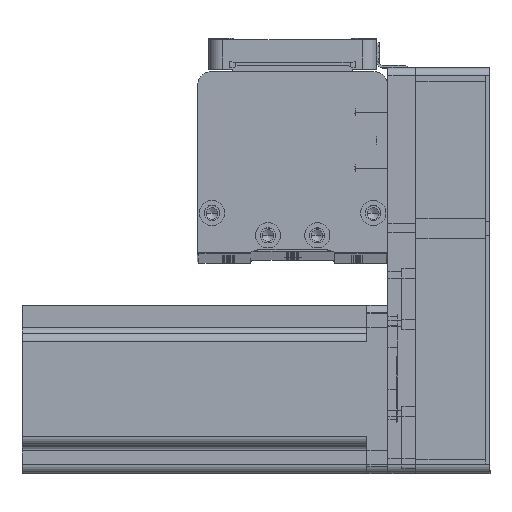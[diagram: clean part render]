
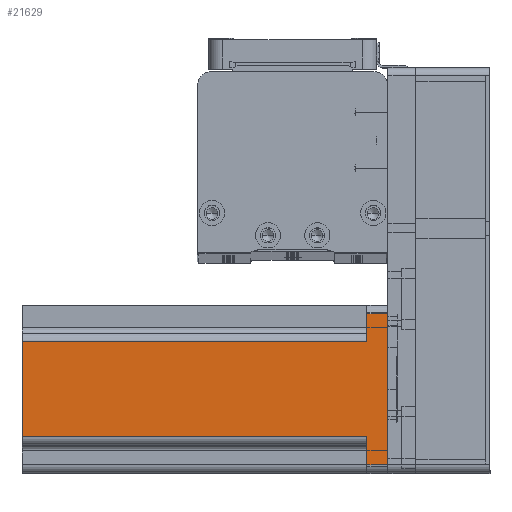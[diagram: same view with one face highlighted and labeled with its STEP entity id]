
A CAD part, top view. The second image highlights one B-rep face of the part: STEP entity #21629.
In plain terms, the highlighted planar face has unit normal (0, 0, 1) as drawn and (0, 1, 0) by its records, which use the part's own axes.
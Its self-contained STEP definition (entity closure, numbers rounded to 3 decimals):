
#415 = ORIENTED_EDGE ( 'NONE', *, *, #3686, .T. ) ;
#421 = CARTESIAN_POINT ( 'NONE',  ( -27., 30., 130.7 ) ) ;
#671 = ORIENTED_EDGE ( 'NONE', *, *, #35387, .T. ) ;
#2283 = EDGE_CURVE ( 'NONE', #49213, #11969, #56302, .T. ) ;
#2529 = ORIENTED_EDGE ( 'NONE', *, *, #20907, .F. ) ;
#2707 = ORIENTED_EDGE ( 'NONE', *, *, #14822, .T. ) ;
#3686 = EDGE_CURVE ( 'NONE', #53828, #40992, #45967, .T. ) ;
#5353 = CARTESIAN_POINT ( 'NONE',  ( -17., 30., 130.7 ) ) ;
#6034 = CARTESIAN_POINT ( 'NONE',  ( -27., 30., 7.5 ) ) ;
#6413 = VECTOR ( 'NONE', #31172, 1000. ) ;
#6857 = VECTOR ( 'NONE', #18306, 1000. ) ;
#7381 = FACE_OUTER_BOUND ( 'NONE', #14682, .T. ) ;
#8769 = CARTESIAN_POINT ( 'NONE',  ( 30., 30., 130.7 ) ) ;
#8783 = VERTEX_POINT ( 'NONE', #49005 ) ;
#10098 = EDGE_CURVE ( 'NONE', #13231, #8783, #54765, .T. ) ;
#11969 = VERTEX_POINT ( 'NONE', #32839 ) ;
#13134 = DIRECTION ( 'NONE',  ( 1., 0., 0. ) ) ;
#13231 = VERTEX_POINT ( 'NONE', #48458 ) ;
#13248 = EDGE_CURVE ( 'NONE', #13950, #40992, #29581, .T. ) ;
#13950 = VERTEX_POINT ( 'NONE', #54290 ) ;
#14682 = EDGE_LOOP ( 'NONE', ( #28384, #2707, #2529, #415, #17820, #16548, #38986, #671 ) ) ;
#14822 = EDGE_CURVE ( 'NONE', #11969, #56229, #18445, .T. ) ;
#16548 = ORIENTED_EDGE ( 'NONE', *, *, #22877, .T. ) ;
#16787 = CARTESIAN_POINT ( 'NONE',  ( -20., 30., 7.5 ) ) ;
#17422 = VECTOR ( 'NONE', #31911, 1000. ) ;
#17820 = ORIENTED_EDGE ( 'NONE', *, *, #13248, .F. ) ;
#17932 = DIRECTION ( 'NONE',  ( 0., 0., 1. ) ) ;
#18306 = DIRECTION ( 'NONE',  ( 0., 0., 1. ) ) ;
#18445 = LINE ( 'NONE', #5353, #6857 ) ;
#20257 = VECTOR ( 'NONE', #38514, 1000. ) ;
#20850 = VECTOR ( 'NONE', #52035, 1000. ) ;
#20907 = EDGE_CURVE ( 'NONE', #53828, #56229, #49590, .T. ) ;
#21629 = ADVANCED_FACE ( 'NONE', ( #7381 ), #21716, .F. ) ;
#21716 = PLANE ( 'NONE',  #31831 ) ;
#22877 = EDGE_CURVE ( 'NONE', #13950, #13231, #53520, .T. ) ;
#26775 = CARTESIAN_POINT ( 'NONE',  ( 20., 30., 7.5 ) ) ;
#28384 = ORIENTED_EDGE ( 'NONE', *, *, #2283, .T. ) ;
#29581 = LINE ( 'NONE', #26775, #6413 ) ;
#30694 = VECTOR ( 'NONE', #17932, 1000. ) ;
#31172 = DIRECTION ( 'NONE',  ( -1., 0., 0. ) ) ;
#31831 = AXIS2_PLACEMENT_3D ( 'NONE', #8769, #39252, #13134 ) ;
#31911 = DIRECTION ( 'NONE',  ( 0., 0., -1. ) ) ;
#32595 = CARTESIAN_POINT ( 'NONE',  ( 17., 30., 130.7 ) ) ;
#32839 = CARTESIAN_POINT ( 'NONE',  ( -17., 30., 7.5 ) ) ;
#33413 = CARTESIAN_POINT ( 'NONE',  ( 30., 30., 130.7 ) ) ;
#33615 = DIRECTION ( 'NONE',  ( -1., 0., 0. ) ) ;
#34391 = VECTOR ( 'NONE', #53570, 1000. ) ;
#35387 = EDGE_CURVE ( 'NONE', #8783, #49213, #42283, .T. ) ;
#35922 = CARTESIAN_POINT ( 'NONE',  ( 27., 30., 130.7 ) ) ;
#38044 = VECTOR ( 'NONE', #33615, 1000. ) ;
#38514 = DIRECTION ( 'NONE',  ( 1., 0., 0. ) ) ;
#38986 = ORIENTED_EDGE ( 'NONE', *, *, #10098, .T. ) ;
#39135 = CARTESIAN_POINT ( 'NONE',  ( 30., 30., 0. ) ) ;
#39252 = DIRECTION ( 'NONE',  ( 0., -1., 0. ) ) ;
#40992 = VERTEX_POINT ( 'NONE', #53947 ) ;
#42283 = LINE ( 'NONE', #421, #30694 ) ;
#45967 = LINE ( 'NONE', #49194, #34391 ) ;
#48458 = CARTESIAN_POINT ( 'NONE',  ( 27., 30., 0. ) ) ;
#49005 = CARTESIAN_POINT ( 'NONE',  ( -27., 30., 0. ) ) ;
#49194 = CARTESIAN_POINT ( 'NONE',  ( 17., 30., 130.7 ) ) ;
#49213 = VERTEX_POINT ( 'NONE', #6034 ) ;
#49590 = LINE ( 'NONE', #33413, #38044 ) ;
#50197 = CARTESIAN_POINT ( 'NONE',  ( -17., 30., 130.7 ) ) ;
#52035 = DIRECTION ( 'NONE',  ( -1., 0., 0. ) ) ;
#53520 = LINE ( 'NONE', #35922, #17422 ) ;
#53570 = DIRECTION ( 'NONE',  ( 0., 0., -1. ) ) ;
#53828 = VERTEX_POINT ( 'NONE', #32595 ) ;
#53947 = CARTESIAN_POINT ( 'NONE',  ( 17., 30., 7.5 ) ) ;
#54290 = CARTESIAN_POINT ( 'NONE',  ( 27., 30., 7.5 ) ) ;
#54765 = LINE ( 'NONE', #39135, #20850 ) ;
#56229 = VERTEX_POINT ( 'NONE', #50197 ) ;
#56302 = LINE ( 'NONE', #16787, #20257 ) ;
